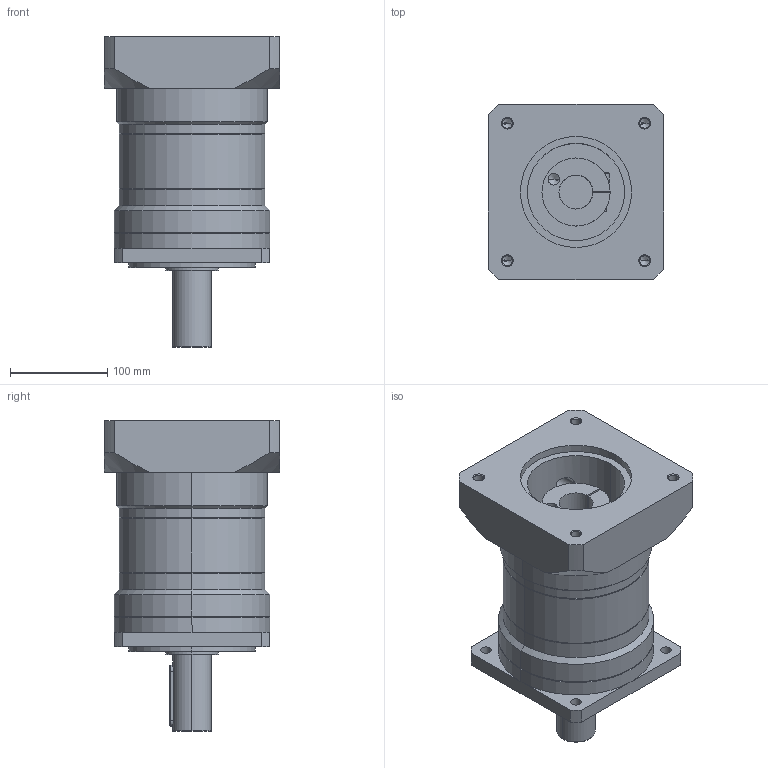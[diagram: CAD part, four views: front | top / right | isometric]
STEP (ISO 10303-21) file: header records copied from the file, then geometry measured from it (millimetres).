
FILE_DESCRIPTION (( 'STEP AP214' ), '1' );
FILE_NAME ('GPBS160双节.STEP', '2019-05-16T12:26:45', ( '个人用户' ), ( '微软中国' ), 'SwSTEP 2.0', 'SolidWorks 2017', '' );
FILE_SCHEMA (( 'AUTOMOTIVE_DESIGN' ));
Length unit declared in the file: millimetre
Products named in the file (1): GPBS160邧誹
Bounding box: 180 x 180 x 319.5 mm (x, y, z)
Volume: 4600920.8 mm3; surface area: 279022.3 mm2
Topology: 1 solids, 1 shells, 169 faces, 393 edges, 232 vertices
Faces by surface type: cylinder 67, cone 47, plane 45, torus 10
Entity records: 5149 total; most frequent: CARTESIAN_POINT 1082, DIRECTION 891, ORIENTED_EDGE 762, EDGE_CURVE 381, AXIS2_PLACEMENT_3D 355, VERTEX_POINT 232, EDGE_LOOP 199, CIRCLE 185
